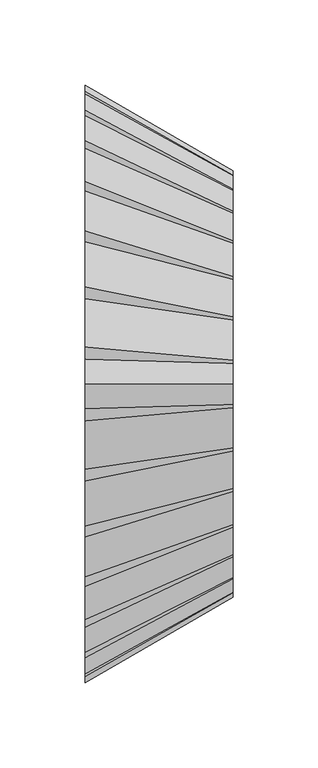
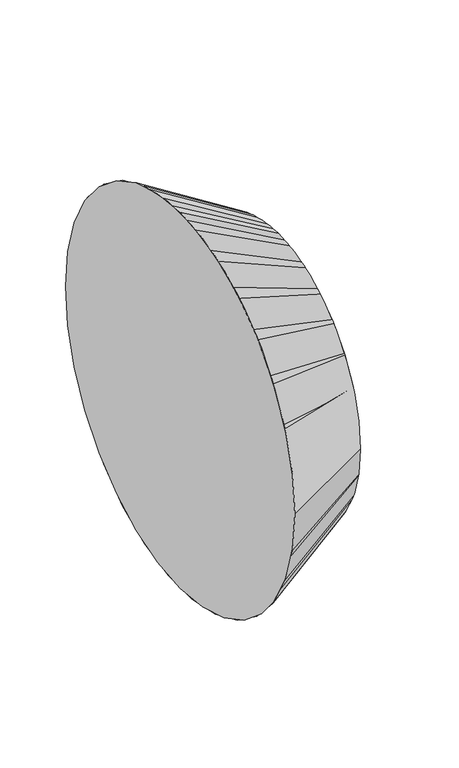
"""IFC4 building model written with IfcOpenShell, lengths in millimetres: duct fitting geometry, magicirc_reduction_001 : magicirc_reduction_001."""

from ifc_helpers import new_model, si_unit, frame, origin, place, context, project, spatial, polyline, circle_curve, source, transform, mapped, element, save
from ifc_brep_helpers import plane_surface, revolved_surface, advanced_brep


def duct_fitting_8999076f(model_context):
    return source(origin(), model_context, "Body", "AdvancedBrep", [
        advanced_brep(
        [(86.6025404, -125.0, 0.0), (86.6025404, 0.0, -125.0), (86.6025404, 125.0, 0.0), (86.6025404, 0.0, 125.0), (0.0, -175.0, 0.0), (0.0, 0.0, 175.0), (0.0, 175.0, 0.0), (0.0, 0.0, -175.0)],
        [
            (0, 1, circle_curve(frame((86.6025404, 0.0, 0.0), z_axis=(1.0, 0.0, 0.0), x_axis=(0.0, -1.0, 0.0)), 125.0)),
            (1, 2, circle_curve(frame((86.6025404, 0.0, 0.0), z_axis=(1.0, 0.0, 0.0), x_axis=(0.0, 0.0, -1.0)), 125.0)),
            (2, 3, circle_curve(frame((86.6025404, 0.0, 0.0), z_axis=(1.0, 0.0, 0.0), x_axis=(0.0, 1.0, 0.0)), 125.0)),
            (3, 0, circle_curve(frame((86.6025404, 0.0, 0.0), z_axis=(1.0, 0.0, 0.0), x_axis=(0.0, 0.0, 1.0)), 125.0)),
            (4, 5, circle_curve(frame((0.0, 0.0, 0.0), z_axis=(-1.0, 0.0, 0.0), x_axis=(0.0, 0.0, 1.0)), 175.0)),
            (5, 6, circle_curve(frame((0.0, 0.0, 0.0), z_axis=(-1.0, 0.0, 0.0), x_axis=(0.0, 1.0, 0.0)), 175.0)),
            (6, 7, circle_curve(frame((0.0, 0.0, 0.0), z_axis=(-1.0, 0.0, 0.0), x_axis=(0.0, 0.0, -1.0)), 175.0)),
            (7, 4, circle_curve(frame((0.0, 0.0, 0.0), z_axis=(-1.0, 0.0, 0.0), x_axis=(0.0, -1.0, 0.0)), 175.0)),
            (7, 1),
            (0, 4),
            (6, 2),
            (5, 3),
        ],
        [
            plane_surface(frame((86.6025404, 0.0, 0.0), z_axis=(1.0, 0.0, 0.0), x_axis=(0.0, 0.0, -1.0))),
            plane_surface(frame((0.0, 0.0, 0.0), z_axis=(-1.0, 0.0, 0.0), x_axis=(0.0, 0.0, -1.0))),
            revolved_surface(polyline([(86.60254040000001, -124.99999998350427, 0.0), (0.0, -175.0, 0.0)]), (303.1088913, 0.0, 0.0), (-1.0, 0.0, 0.0)),
            revolved_surface(polyline([(86.60254040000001, 0.0, -124.99999998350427), (0.0, 0.0, -175.0)]), (303.1088913, 0.0, 0.0), (-1.0, 0.0, 0.0)),
            revolved_surface(polyline([(86.60254040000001, 124.99999998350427, 0.0), (0.0, 175.0, 0.0)]), (303.1088913, 0.0, 0.0), (-1.0, 0.0, 0.0)),
            revolved_surface(polyline([(86.60254040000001, 0.0, 124.99999998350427), (0.0, 0.0, 175.0)]), (303.1088913, 0.0, 0.0), (-1.0, 0.0, 0.0)),
        ],
        [
            (0, [[1, 2, 3, 4]]),
            (1, [[5, 6, 7, 8]]),
            (2, [[-8, 9, -1, 10]]),
            (3, [[-7, 11, -2, -9]]),
            (4, [[-6, 12, -3, -11]]),
            (5, [[-5, -10, -4, -12]]),
        ],
    ),
        advanced_brep(
        [(0.0, -175.0, 0.0), (0.0, 0.0, 175.0), (0.0, 175.0, 0.0), (0.0, 0.0, -175.0), (86.6025404, -125.0, 0.0), (86.6025404, 0.0, -125.0), (86.6025404, 125.0, 0.0), (86.6025404, 0.0, 125.0)],
        [
            (0, 1, circle_curve(frame((0.0, 0.0, 0.0), z_axis=(-1.0, 0.0, 0.0), x_axis=(0.0, -1.0, 0.0)), 175.0)),
            (1, 2, circle_curve(frame((0.0, 0.0, 0.0), z_axis=(-1.0, 0.0, 0.0), x_axis=(0.0, 0.0, 1.0)), 175.0)),
            (2, 3, circle_curve(frame((0.0, 0.0, 0.0), z_axis=(-1.0, 0.0, 0.0), x_axis=(0.0, 1.0, 0.0)), 175.0)),
            (3, 0, circle_curve(frame((0.0, 0.0, 0.0), z_axis=(-1.0, 0.0, 0.0), x_axis=(0.0, 0.0, -1.0)), 175.0)),
            (4, 5, circle_curve(frame((86.6025404, 0.0, 0.0), z_axis=(1.0, 0.0, 0.0), x_axis=(0.0, 0.0, -1.0)), 125.0)),
            (5, 6, circle_curve(frame((86.6025404, 0.0, 0.0), z_axis=(1.0, 0.0, 0.0), x_axis=(0.0, 1.0, 0.0)), 125.0)),
            (6, 7, circle_curve(frame((86.6025404, 0.0, 0.0), z_axis=(1.0, 0.0, 0.0), x_axis=(0.0, 0.0, 1.0)), 125.0)),
            (7, 4, circle_curve(frame((86.6025404, 0.0, 0.0), z_axis=(1.0, 0.0, 0.0), x_axis=(0.0, -1.0, 0.0)), 125.0)),
            (7, 1),
            (0, 4),
            (6, 2),
            (5, 3),
        ],
        [
            plane_surface(frame((0.0, 0.0, 0.0), z_axis=(-1.0, 0.0, 0.0), x_axis=(0.0, 0.0, -1.0))),
            plane_surface(frame((86.6025404, 0.0, 0.0), z_axis=(1.0, 0.0, 0.0), x_axis=(0.0, 0.0, -1.0))),
            revolved_surface(polyline([(86.60254040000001, 0.0, 124.99999998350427), (0.0, 0.0, 175.0)]), (303.1088913, 0.0, 0.0), (-1.0, 0.0, 0.0)),
            revolved_surface(polyline([(86.60254040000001, 124.99999998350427, 0.0), (0.0, 175.0, 0.0)]), (303.1088913, 0.0, 0.0), (-1.0, 0.0, 0.0)),
            revolved_surface(polyline([(86.60254040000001, 0.0, -124.99999998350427), (0.0, 0.0, -175.0)]), (303.1088913, 0.0, 0.0), (-1.0, 0.0, 0.0)),
            revolved_surface(polyline([(86.60254040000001, -124.99999998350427, 0.0), (0.0, -175.0, 0.0)]), (303.1088913, 0.0, 0.0), (-1.0, 0.0, 0.0)),
        ],
        [
            (0, [[1, 2, 3, 4]]),
            (1, [[5, 6, 7, 8]]),
            (2, [[-8, 9, -1, 10]]),
            (3, [[-7, 11, -2, -9]]),
            (4, [[-6, 12, -3, -11]]),
            (5, [[-5, -10, -4, -12]]),
        ],
    ),
        advanced_brep(
        [(86.6025404, -125.0, 0.0), (86.6025404, 125.0, 0.0), (0.0, -175.0, 0.0), (0.0, 175.0, 0.0)],
        [
            (0, 1, circle_curve(frame((86.6025404, 0.0, 0.0), z_axis=(1.0, 0.0, 0.0), x_axis=(0.0, -1.0, 0.0)), 125.0)),
            (1, 0, circle_curve(frame((86.6025404, 0.0, 0.0), z_axis=(1.0, 0.0, 0.0), x_axis=(0.0, 1.0, 0.0)), 125.0)),
            (2, 3, circle_curve(frame((0.0, 0.0, 0.0), z_axis=(-1.0, 0.0, 0.0), x_axis=(0.0, 1.0, 0.0)), 175.0)),
            (3, 2, circle_curve(frame((0.0, 0.0, 0.0), z_axis=(-1.0, 0.0, 0.0), x_axis=(0.0, -1.0, 0.0)), 175.0)),
            (3, 1),
            (0, 2),
        ],
        [
            plane_surface(frame((86.6025404, 0.0, 0.0), z_axis=(1.0, 0.0, 0.0), x_axis=(0.0, 0.0, -1.0))),
            plane_surface(frame((0.0, 0.0, 0.0), z_axis=(-1.0, 0.0, 0.0), x_axis=(0.0, 0.0, -1.0))),
            revolved_surface(polyline([(86.60254040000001, -124.99999998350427, 0.0), (0.0, -175.0, 0.0)]), (303.1088913, 0.0, 0.0), (-1.0, 0.0, 0.0)),
            revolved_surface(polyline([(86.60254040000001, 124.99999998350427, 0.0), (0.0, 175.0, 0.0)]), (303.1088913, 0.0, 0.0), (-1.0, 0.0, 0.0)),
        ],
        [
            (0, [[1, 2]]),
            (1, [[3, 4]]),
            (2, [[-4, 5, -1, 6]]),
            (3, [[-3, -6, -2, -5]]),
        ],
    ),
    ])


if __name__ == "__main__":
    model = new_model("IFC4")
    model_context = context("Model", 3, world=origin())
    ifc_project = project(units=[si_unit("LENGTHUNIT", "METRE", prefix="MILLI")], contexts=[model_context])
    site = spatial("IfcSite", under=ifc_project)
    building = spatial("IfcBuilding", under=site)
    placement = place(None, origin())
    duct_fitting_shape = duct_fitting_8999076f(model_context)
    element("IfcDuctFitting", 1, ObjectType="magicirc_reduction_001 : magicirc_reduction_001", at=placement, inside=building, context=model_context, shape_type="MappedRepresentation", body=[
        mapped(duct_fitting_shape, transform((0.0, 0.0, 0.0), x_axis=(1.0, 0.0, 0.0), y_axis=(0.0, 1.0, 0.0), z_axis=(0.0, 0.0, 1.0))),
    ])
    save(model, "model.ifc")
